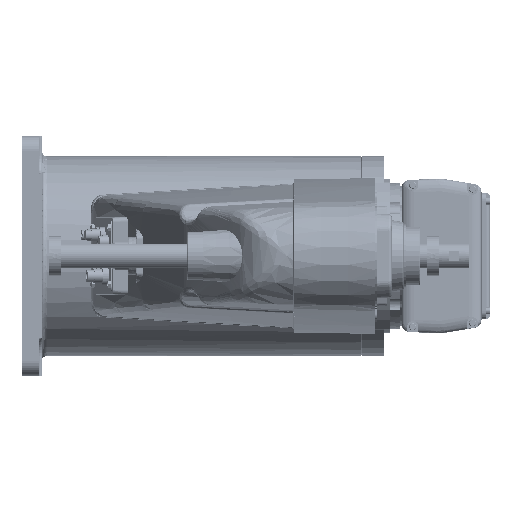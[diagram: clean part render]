
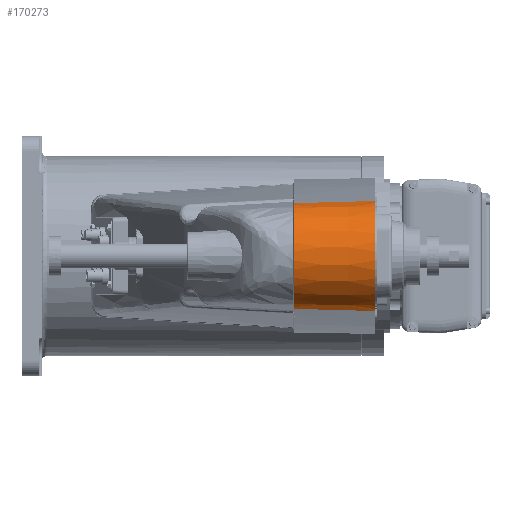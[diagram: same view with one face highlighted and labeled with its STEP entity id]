
A CAD part, left-side view. The second image highlights one B-rep face of the part: STEP entity #170273.
In plain terms, the highlighted conical face has half-angle 1.5 degrees and reference radius 54.489 mm.
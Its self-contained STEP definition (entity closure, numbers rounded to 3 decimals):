
#94386=CARTESIAN_POINT('',(-850.,-353.5,0.));
#94387=DIRECTION('',(0.,-1.,0.));
#94388=DIRECTION('',(-0.126,0.,0.992));
#94389=AXIS2_PLACEMENT_3D('',#94386,#94387,#94388);
#94436=DIRECTION('',(-0.003,-1.,-0.026));
#94437=VECTOR('',#94436,80.528);
#94438=CARTESIAN_POINT('',(-856.718,-273.,-53.011));
#94439=LINE('',#94438,#94437);
#114095=CARTESIAN_POINT('',(-850.,-273.,0.));
#114096=DIRECTION('',(0.,1.,0.));
#114097=DIRECTION('',(-0.126,0.,-0.992));
#114098=AXIS2_PLACEMENT_3D('',#114095,#114096,#114097);
#114100=DIRECTION('',(-0.003,-1.,0.026));
#114101=VECTOR('',#114100,80.528);
#114102=CARTESIAN_POINT('',(-856.718,-273.,53.011));
#114103=LINE('',#114102,#114101);
#129119=CARTESIAN_POINT('',(-856.983,-353.5,
-55.102));
#129121=VERTEX_POINT('',#129119);
#129125=CARTESIAN_POINT('',(-856.983,-353.5,55.102));
#129126=VERTEX_POINT('',#129125);
#129389=CARTESIAN_POINT('',(-856.718,-273.,-53.011));
#129390=CARTESIAN_POINT('',(-856.718,-273.,53.011));
#129391=VERTEX_POINT('',#129389);
#129392=VERTEX_POINT('',#129390);
#170262=CARTESIAN_POINT('',(-850.,-313.25,0.));
#170263=DIRECTION('',(0.,-1.,0.));
#170264=DIRECTION('',(-1.,0.,0.));
#170265=AXIS2_PLACEMENT_3D('',#170262,#170263,#170264);
#170266=CONICAL_SURFACE('',#170265,54.489,1.5);
#170267=ORIENTED_EDGE('',*,*,#170249,.T.);
#170268=ORIENTED_EDGE('',*,*,#144725,.T.);
#170269=ORIENTED_EDGE('',*,*,#143747,.T.);
#170270=ORIENTED_EDGE('',*,*,#143781,.F.);
#170271=EDGE_LOOP('',(#170267,#170268,#170269,#170270));
#170272=FACE_OUTER_BOUND('',#170271,.F.);
#170273=ADVANCED_FACE('',(#170272),#170266,.T.);
#94390=CIRCLE('',#94389,55.543);
#114099=CIRCLE('',#114098,53.435);
#143747=EDGE_CURVE('',#129126,#129121,#94390,.T.);
#143781=EDGE_CURVE('',#129391,#129121,#94439,.T.);
#144725=EDGE_CURVE('',#129392,#129126,#114103,.T.);
#170249=EDGE_CURVE('',#129391,#129392,#114099,.T.);
